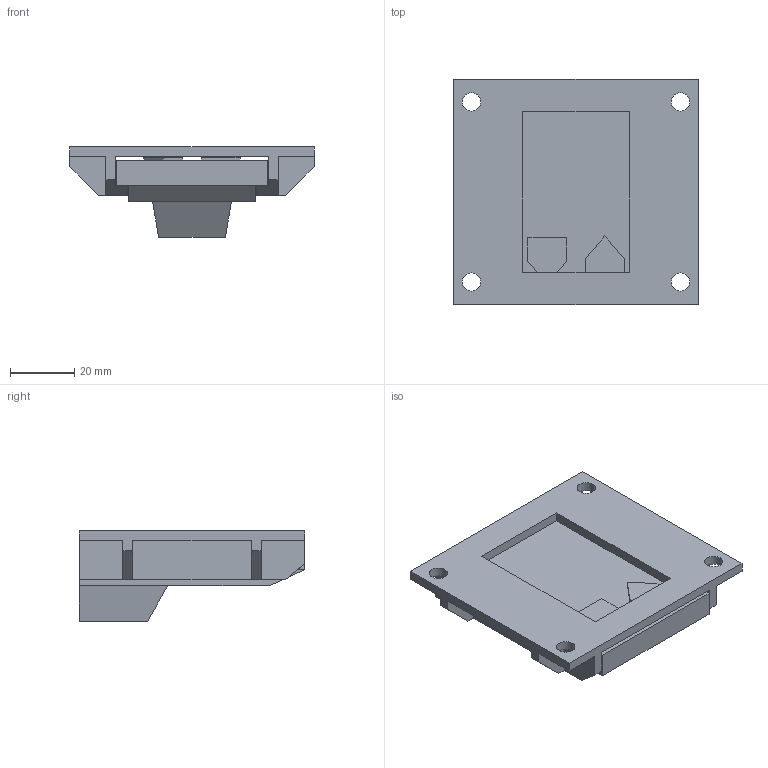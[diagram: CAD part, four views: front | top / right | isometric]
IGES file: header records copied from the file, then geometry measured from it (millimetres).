
Start section: Data from Parasolid IGES Translator 20.0.26, Copyright(c) 2006 Siemens P LM Software. All Rights Reserved.
Global section: file name: 9309936.igs; native system: By Siemens PLM Incorporated; preprocessor: XPlus GENERIC/IGES 20.0.26; author: Noname; organization: Noname; date: 20211203.151602; units: millimetre
Bounding box: 76 x 70 x 28.1 mm (x, y, z)
Surface area: 23514.6 mm2 (no closed solid volume)
Topology: 0 solids, 0 shells, 84 faces, 470 edges, 462 vertices
Faces by surface type: extrusion 80, revolution 4
